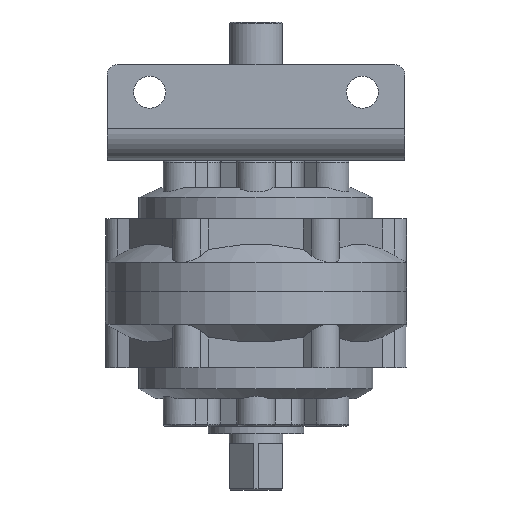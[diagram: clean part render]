
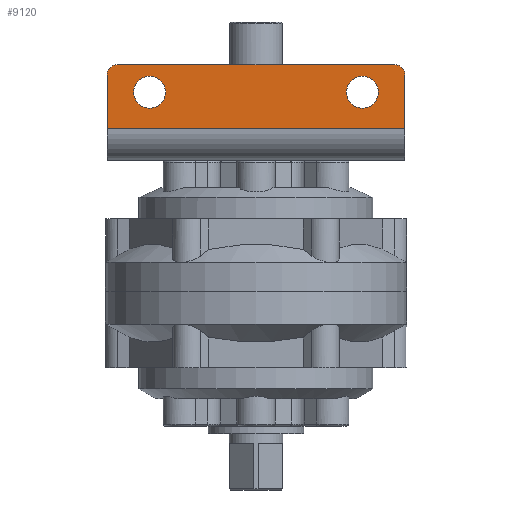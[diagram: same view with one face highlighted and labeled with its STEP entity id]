
A CAD part, front view. The second image highlights one B-rep face of the part: STEP entity #9120.
In plain terms, the highlighted planar face has unit normal (0, -1, 0).
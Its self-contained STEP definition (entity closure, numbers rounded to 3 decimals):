
#114 = CARTESIAN_POINT ( 'NONE',  ( -50., -80., 12.5 ) ) ;
#670 = EDGE_CURVE ( 'NONE', #12835, #6357, #16817, .T. ) ;
#1053 = CARTESIAN_POINT ( 'NONE',  ( -65., -80., 28. ) ) ;
#1105 = EDGE_CURVE ( 'NONE', #12663, #10408, #14960, .T. ) ;
#1147 = AXIS2_PLACEMENT_3D ( 'NONE', #1053, #2666, #7347 ) ;
#1553 = EDGE_CURVE ( 'NONE', #19101, #10337, #12855, .T. ) ;
#1573 = FACE_BOUND ( 'NONE', #4857, .T. ) ;
#2094 = CARTESIAN_POINT ( 'NONE',  ( -50., -80., 20. ) ) ;
#2150 = EDGE_LOOP ( 'NONE', ( #16051, #18185 ) ) ;
#2324 = DIRECTION ( 'NONE',  ( 0., 0., -1. ) ) ;
#2378 = DIRECTION ( 'NONE',  ( 0., 0., -1. ) ) ;
#2426 = VECTOR ( 'NONE', #18340, 1000. ) ;
#2433 = DIRECTION ( 'NONE',  ( 1., 0., 0. ) ) ;
#2483 = FACE_OUTER_BOUND ( 'NONE', #16392, .T. ) ;
#2666 = DIRECTION ( 'NONE',  ( 0., -1., 0. ) ) ;
#2886 = DIRECTION ( 'NONE',  ( 0., -1., 0. ) ) ;
#3566 = ORIENTED_EDGE ( 'NONE', *, *, #18508, .T. ) ;
#3567 = CARTESIAN_POINT ( 'NONE',  ( -70., -80., 28. ) ) ;
#3937 = CARTESIAN_POINT ( 'NONE',  ( 70., -80., 28. ) ) ;
#3963 = ORIENTED_EDGE ( 'NONE', *, *, #670, .F. ) ;
#4011 = CARTESIAN_POINT ( 'NONE',  ( 65., -80., 28. ) ) ;
#4024 = EDGE_CURVE ( 'NONE', #10178, #8164, #10721, .T. ) ;
#4026 = ORIENTED_EDGE ( 'NONE', *, *, #16305, .T. ) ;
#4080 = CARTESIAN_POINT ( 'NONE',  ( -50., -80., 27.5 ) ) ;
#4380 = CARTESIAN_POINT ( 'NONE',  ( 50., -80., 12.5 ) ) ;
#4857 = EDGE_LOOP ( 'NONE', ( #6924, #3963 ) ) ;
#4976 = AXIS2_PLACEMENT_3D ( 'NONE', #4011, #8161, #2324 ) ;
#5063 = CARTESIAN_POINT ( 'NONE',  ( -70., -80., -12. ) ) ;
#5102 = CARTESIAN_POINT ( 'NONE',  ( -50., -80., 20. ) ) ;
#5135 = ORIENTED_EDGE ( 'NONE', *, *, #19115, .T. ) ;
#5307 = CARTESIAN_POINT ( 'NONE',  ( 50., -80., 20. ) ) ;
#6169 = CARTESIAN_POINT ( 'NONE',  ( -65., -80., 33. ) ) ;
#6231 = CARTESIAN_POINT ( 'NONE',  ( 70., -80., 3. ) ) ;
#6357 = VERTEX_POINT ( 'NONE', #4080 ) ;
#6497 = CIRCLE ( 'NONE', #14825, 7.5 ) ;
#6638 = FACE_BOUND ( 'NONE', #2150, .T. ) ;
#6924 = ORIENTED_EDGE ( 'NONE', *, *, #14290, .F. ) ;
#7123 = CARTESIAN_POINT ( 'NONE',  ( -70., -80., -12. ) ) ;
#7347 = DIRECTION ( 'NONE',  ( 0., 0., -1. ) ) ;
#7608 = EDGE_CURVE ( 'NONE', #19101, #8164, #9444, .T. ) ;
#7923 = DIRECTION ( 'NONE',  ( 0., 0., -1. ) ) ;
#8161 = DIRECTION ( 'NONE',  ( 0., -1., 0. ) ) ;
#8164 = VERTEX_POINT ( 'NONE', #3567 ) ;
#8290 = AXIS2_PLACEMENT_3D ( 'NONE', #7123, #2886, #17419 ) ;
#8348 = CARTESIAN_POINT ( 'NONE',  ( -70., -80., 3. ) ) ;
#9055 = DIRECTION ( 'NONE',  ( 1., 0., 0. ) ) ;
#9120 = ADVANCED_FACE ( 'NONE', ( #2483, #1573, #6638 ), #10033, .T. ) ;
#9373 = DIRECTION ( 'NONE',  ( 0., 0., -1. ) ) ;
#9444 = CIRCLE ( 'NONE', #1147, 5. ) ;
#10033 = PLANE ( 'NONE',  #8290 ) ;
#10127 = VECTOR ( 'NONE', #9055, 1000. ) ;
#10178 = VERTEX_POINT ( 'NONE', #8348 ) ;
#10185 = CARTESIAN_POINT ( 'NONE',  ( 70., -80., -12. ) ) ;
#10288 = CARTESIAN_POINT ( 'NONE',  ( 65., -80., 33. ) ) ;
#10337 = VERTEX_POINT ( 'NONE', #10288 ) ;
#10408 = VERTEX_POINT ( 'NONE', #15013 ) ;
#10721 = LINE ( 'NONE', #5063, #2426 ) ;
#10956 = VERTEX_POINT ( 'NONE', #3937 ) ;
#11406 = CIRCLE ( 'NONE', #18180, 7.5 ) ;
#11688 = DIRECTION ( 'NONE',  ( 0., 0., 1. ) ) ;
#12251 = LINE ( 'NONE', #10185, #15044 ) ;
#12337 = DIRECTION ( 'NONE',  ( 0., -1., 0. ) ) ;
#12644 = DIRECTION ( 'NONE',  ( 0., 1., 0. ) ) ;
#12663 = VERTEX_POINT ( 'NONE', #4380 ) ;
#12707 = ORIENTED_EDGE ( 'NONE', *, *, #4024, .F. ) ;
#12825 = ORIENTED_EDGE ( 'NONE', *, *, #1553, .F. ) ;
#12835 = VERTEX_POINT ( 'NONE', #114 ) ;
#12855 = LINE ( 'NONE', #15552, #17037 ) ;
#13589 = CARTESIAN_POINT ( 'NONE',  ( 70., -80., 3. ) ) ;
#14070 = LINE ( 'NONE', #13589, #10127 ) ;
#14185 = CIRCLE ( 'NONE', #4976, 5. ) ;
#14290 = EDGE_CURVE ( 'NONE', #6357, #12835, #6497, .T. ) ;
#14825 = AXIS2_PLACEMENT_3D ( 'NONE', #2094, #12337, #7923 ) ;
#14960 = CIRCLE ( 'NONE', #18359, 7.5 ) ;
#15013 = CARTESIAN_POINT ( 'NONE',  ( 50., -80., 27.5 ) ) ;
#15017 = DIRECTION ( 'NONE',  ( 0., 1., 0. ) ) ;
#15044 = VECTOR ( 'NONE', #11688, 1000. ) ;
#15552 = CARTESIAN_POINT ( 'NONE',  ( -70., -80., 33. ) ) ;
#15626 = DIRECTION ( 'NONE',  ( 0., -1., 0. ) ) ;
#15822 = DIRECTION ( 'NONE',  ( 0., 0., -1. ) ) ;
#16051 = ORIENTED_EDGE ( 'NONE', *, *, #16303, .T. ) ;
#16303 = EDGE_CURVE ( 'NONE', #10408, #12663, #11406, .T. ) ;
#16305 = EDGE_CURVE ( 'NONE', #10956, #10337, #14185, .T. ) ;
#16392 = EDGE_LOOP ( 'NONE', ( #12707, #5135, #3566, #4026, #12825, #19128 ) ) ;
#16689 = VERTEX_POINT ( 'NONE', #6231 ) ;
#16817 = CIRCLE ( 'NONE', #18998, 7.5 ) ;
#17037 = VECTOR ( 'NONE', #2433, 1000. ) ;
#17419 = DIRECTION ( 'NONE',  ( 0., 0., -1. ) ) ;
#18180 = AXIS2_PLACEMENT_3D ( 'NONE', #5307, #12644, #15822 ) ;
#18185 = ORIENTED_EDGE ( 'NONE', *, *, #1105, .T. ) ;
#18232 = CARTESIAN_POINT ( 'NONE',  ( 50., -80., 20. ) ) ;
#18340 = DIRECTION ( 'NONE',  ( 0., 0., 1. ) ) ;
#18359 = AXIS2_PLACEMENT_3D ( 'NONE', #18232, #15017, #9373 ) ;
#18508 = EDGE_CURVE ( 'NONE', #16689, #10956, #12251, .T. ) ;
#18998 = AXIS2_PLACEMENT_3D ( 'NONE', #5102, #15626, #2378 ) ;
#19101 = VERTEX_POINT ( 'NONE', #6169 ) ;
#19115 = EDGE_CURVE ( 'NONE', #10178, #16689, #14070, .T. ) ;
#19128 = ORIENTED_EDGE ( 'NONE', *, *, #7608, .T. ) ;
